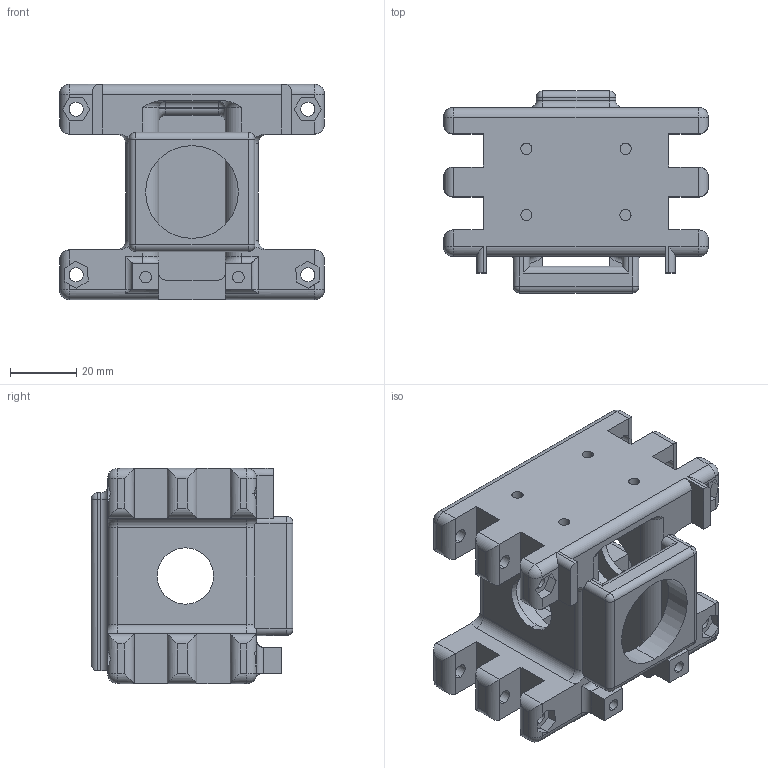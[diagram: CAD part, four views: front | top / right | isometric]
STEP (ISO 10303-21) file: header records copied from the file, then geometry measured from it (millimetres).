
FILE_DESCRIPTION (( 'STEP AP203' ), '1' );
FILE_NAME ('Main Suspension Hub Connector Rear.STEP', '2026-01-17T21:10:58', ( '' ), ( '' ), 'SwSTEP 2.0', 'SolidWorks 2026', '' );
FILE_SCHEMA (( 'CONFIG_CONTROL_DESIGN' ));
Length unit declared in the file: millimetre
Products named in the file (1): Main Suspension Hub Connector Rear
Bounding box: 80 x 61 x 65 mm (x, y, z)
Volume: 97591 mm3; surface area: 37589.9 mm2
Topology: 1 solids, 1 shells, 347 faces, 938 edges, 573 vertices
Faces by surface type: cylinder 176, plane 134, torus 21, sphere 16
Entity records: 11193 total; most frequent: CARTESIAN_POINT 2508, ORIENTED_EDGE 1844, DIRECTION 1804, EDGE_CURVE 922, AXIS2_PLACEMENT_3D 647, VERTEX_POINT 573, LINE 510, VECTOR 510
